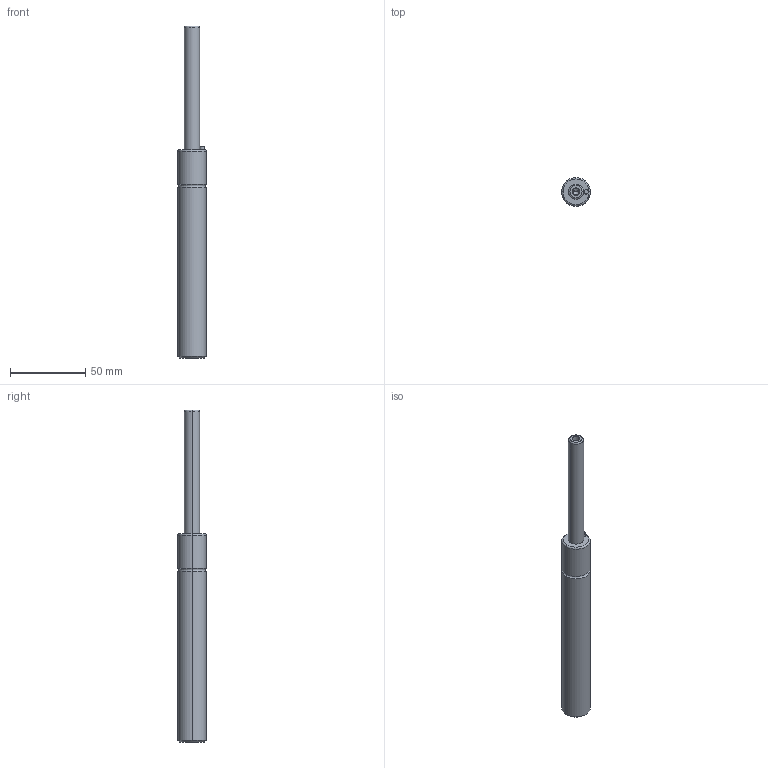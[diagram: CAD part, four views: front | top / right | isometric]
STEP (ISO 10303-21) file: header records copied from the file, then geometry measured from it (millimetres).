
FILE_DESCRIPTION(/* description */ (''),/* implementation_level */ '2;1');
FILE_NAME(/* name */ '3d_gsm19-80_03945_r00.stp',/* time_stamp */ '2011-01-10T14:15:17+09:00',/* author */ ('MISUMI'),/* organization */ (''),/* preprocessor_version */ 'ST-DEVELOPER v11',/* originating_system */ 'UGS - NX 5.0',/* authorisation */ '');
FILE_SCHEMA (('CONFIG_CONTROL_DESIGN'));
Length unit declared in the file: millimetre
Products named in the file (1): 3d_gsm19-80_03945_r00
Bounding box: 19 x 19 x 220 mm (x, y, z)
Volume: 45003.6 mm3; surface area: 11697.3 mm2
Topology: 1 solids, 1 shells, 34 faces, 70 edges, 40 vertices
Faces by surface type: cylinder 16, cone 6, plane 6, torus 6
Entity records: 964 total; most frequent: DIRECTION 180, CARTESIAN_POINT 141, ORIENTED_EDGE 132, AXIS2_PLACEMENT_3D 79, EDGE_CURVE 66, CIRCLE 44, EDGE_LOOP 40, VERTEX_POINT 40
